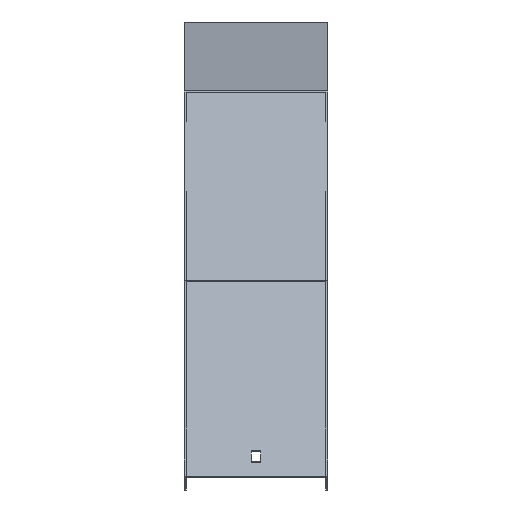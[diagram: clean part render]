
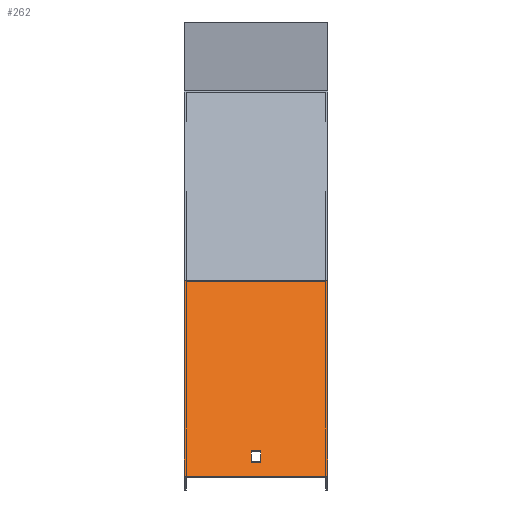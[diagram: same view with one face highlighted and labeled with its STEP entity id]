
A CAD part, top view. The second image highlights one B-rep face of the part: STEP entity #262.
In plain terms, the highlighted planar face has unit normal (0, 0.5, 0.866).
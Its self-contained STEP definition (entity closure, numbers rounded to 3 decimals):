
#15 = LINE ( 'NONE', #238, #81 ) ;
#36 = LINE ( 'NONE', #59, #600 ) ;
#59 = CARTESIAN_POINT ( 'NONE',  ( 51.5, -289.074, 556.332 ) ) ;
#81 = VECTOR ( 'NONE', #775, 1000. ) ;
#84 = ORIENTED_EDGE ( 'NONE', *, *, #393, .F. ) ;
#108 = CARTESIAN_POINT ( 'NONE',  ( 3.25, -289.074, 556.332 ) ) ;
#117 = LINE ( 'NONE', #417, #795 ) ;
#125 = VERTEX_POINT ( 'NONE', #741 ) ;
#148 = VECTOR ( 'NONE', #548, 1000. ) ;
#156 = ORIENTED_EDGE ( 'NONE', *, *, #755, .T. ) ;
#160 = DIRECTION ( 'NONE',  ( 0., 0.866, -0.5 ) ) ;
#185 = ORIENTED_EDGE ( 'NONE', *, *, #880, .T. ) ;
#189 = VERTEX_POINT ( 'NONE', #636 ) ;
#190 = DIRECTION ( 'NONE',  ( 0., -0.5, -0.866 ) ) ;
#198 = CARTESIAN_POINT ( 'NONE',  ( -3.25, -296.868, 560.832 ) ) ;
#238 = CARTESIAN_POINT ( 'NONE',  ( 51.5, -296.868, 560.832 ) ) ;
#251 = VERTEX_POINT ( 'NONE', #876 ) ;
#262 = ADVANCED_FACE ( 'NONE', ( #345, #731 ), #268, .F. ) ;
#268 = PLANE ( 'NONE',  #837 ) ;
#274 = VERTEX_POINT ( 'NONE', #198 ) ;
#308 = VERTEX_POINT ( 'NONE', #450 ) ;
#319 = VECTOR ( 'NONE', #820, 1000. ) ;
#328 = CARTESIAN_POINT ( 'NONE',  ( 51.5, -168.696, 486.832 ) ) ;
#333 = VECTOR ( 'NONE', #160, 1000. ) ;
#345 = FACE_BOUND ( 'NONE', #618, .T. ) ;
#359 = CARTESIAN_POINT ( 'NONE',  ( -51.5, -168.696, 486.832 ) ) ;
#381 = LINE ( 'NONE', #622, #148 ) ;
#393 = EDGE_CURVE ( 'NONE', #308, #125, #381, .T. ) ;
#417 = CARTESIAN_POINT ( 'NONE',  ( 51.5, -168.696, 486.832 ) ) ;
#434 = CARTESIAN_POINT ( 'NONE',  ( 51.5, -166.416, 485.515 ) ) ;
#450 = CARTESIAN_POINT ( 'NONE',  ( 51.5, -307.26, 566.832 ) ) ;
#471 = CARTESIAN_POINT ( 'NONE',  ( -3.25, -168.696, 486.832 ) ) ;
#505 = VECTOR ( 'NONE', #970, 1000. ) ;
#518 = LINE ( 'NONE', #740, #319 ) ;
#525 = ORIENTED_EDGE ( 'NONE', *, *, #920, .T. ) ;
#534 = EDGE_LOOP ( 'NONE', ( #739, #84, #835, #710 ) ) ;
#537 = CARTESIAN_POINT ( 'NONE',  ( -51.5, -166.416, 485.515 ) ) ;
#548 = DIRECTION ( 'NONE',  ( -1., 0., 0. ) ) ;
#554 = VERTEX_POINT ( 'NONE', #108 ) ;
#599 = DIRECTION ( 'NONE',  ( 0., -0.866, 0.5 ) ) ;
#600 = VECTOR ( 'NONE', #670, 1000. ) ;
#618 = EDGE_LOOP ( 'NONE', ( #927, #156, #185, #525 ) ) ;
#622 = CARTESIAN_POINT ( 'NONE',  ( 51.5, -307.26, 566.832 ) ) ;
#630 = VERTEX_POINT ( 'NONE', #648 ) ;
#636 = CARTESIAN_POINT ( 'NONE',  ( -3.25, -289.074, 556.332 ) ) ;
#648 = CARTESIAN_POINT ( 'NONE',  ( 3.25, -296.868, 560.832 ) ) ;
#666 = DIRECTION ( 'NONE',  ( 0., -0.866, 0.5 ) ) ;
#670 = DIRECTION ( 'NONE',  ( 1., 0., 0. ) ) ;
#672 = EDGE_CURVE ( 'NONE', #251, #929, #681, .T. ) ;
#681 = LINE ( 'NONE', #434, #505 ) ;
#710 = ORIENTED_EDGE ( 'NONE', *, *, #672, .T. ) ;
#727 = EDGE_CURVE ( 'NONE', #189, #554, #36, .T. ) ;
#731 = FACE_OUTER_BOUND ( 'NONE', #534, .T. ) ;
#739 = ORIENTED_EDGE ( 'NONE', *, *, #770, .T. ) ;
#740 = CARTESIAN_POINT ( 'NONE',  ( 3.25, -168.696, 486.832 ) ) ;
#741 = CARTESIAN_POINT ( 'NONE',  ( -51.5, -307.26, 566.832 ) ) ;
#755 = EDGE_CURVE ( 'NONE', #554, #630, #518, .T. ) ;
#770 = EDGE_CURVE ( 'NONE', #929, #125, #953, .T. ) ;
#775 = DIRECTION ( 'NONE',  ( -1., 0., 0. ) ) ;
#792 = EDGE_CURVE ( 'NONE', #251, #308, #117, .T. ) ;
#795 = VECTOR ( 'NONE', #666, 1000. ) ;
#819 = DIRECTION ( 'NONE',  ( 0., 0.866, -0.5 ) ) ;
#820 = DIRECTION ( 'NONE',  ( 0., -0.866, 0.5 ) ) ;
#835 = ORIENTED_EDGE ( 'NONE', *, *, #792, .F. ) ;
#837 = AXIS2_PLACEMENT_3D ( 'NONE', #328, #190, #819 ) ;
#845 = VECTOR ( 'NONE', #599, 1000. ) ;
#858 = LINE ( 'NONE', #471, #333 ) ;
#876 = CARTESIAN_POINT ( 'NONE',  ( 51.5, -166.416, 485.515 ) ) ;
#880 = EDGE_CURVE ( 'NONE', #630, #274, #15, .T. ) ;
#920 = EDGE_CURVE ( 'NONE', #274, #189, #858, .T. ) ;
#927 = ORIENTED_EDGE ( 'NONE', *, *, #727, .T. ) ;
#929 = VERTEX_POINT ( 'NONE', #537 ) ;
#953 = LINE ( 'NONE', #359, #845 ) ;
#970 = DIRECTION ( 'NONE',  ( -1., 0., 0. ) ) ;
